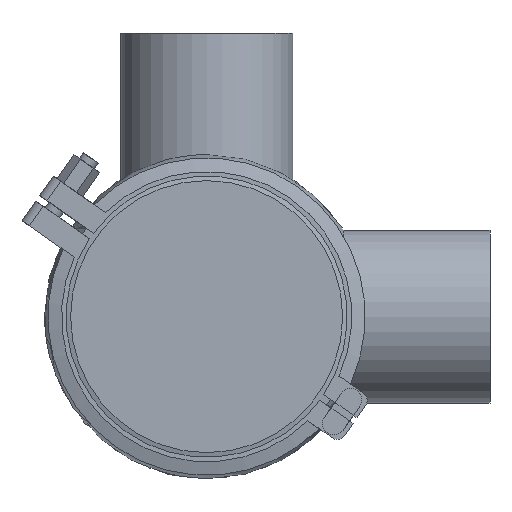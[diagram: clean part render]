
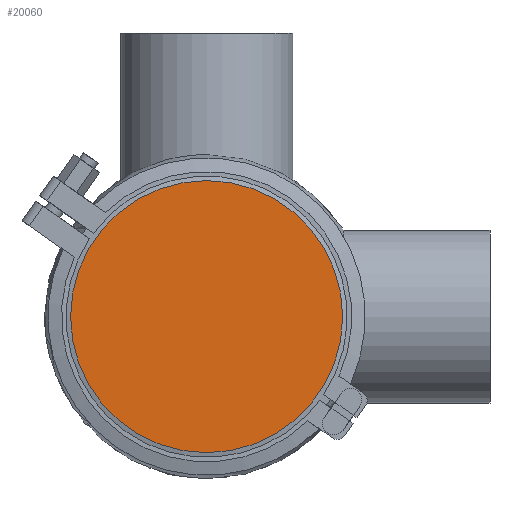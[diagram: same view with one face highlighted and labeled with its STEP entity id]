
A CAD part, front view. The second image highlights one B-rep face of the part: STEP entity #20060.
In plain terms, the highlighted planar face has unit normal (0, -1, 0).
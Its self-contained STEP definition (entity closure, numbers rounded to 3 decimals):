
#920 = FACE_OUTER_BOUND ( 'NONE', #16624, .T. ) ;
#2531 = DIRECTION ( 'NONE',  ( 0., -1., 0. ) ) ;
#4065 = AXIS2_PLACEMENT_3D ( 'NONE', #5713, #2531, #17338 ) ;
#5713 = CARTESIAN_POINT ( 'NONE',  ( -60., 0., 0. ) ) ;
#5897 = VERTEX_POINT ( 'NONE', #7712 ) ;
#6148 = EDGE_CURVE ( 'NONE', #5897, #5897, #11868, .T. ) ;
#7712 = CARTESIAN_POINT ( 'NONE',  ( 0., 0., 60. ) ) ;
#9273 = ORIENTED_EDGE ( 'NONE', *, *, #6148, .F. ) ;
#10584 = CARTESIAN_POINT ( 'NONE',  ( 0., 0., 0. ) ) ;
#10696 = DIRECTION ( 'NONE',  ( 0., 0., 1. ) ) ;
#10830 = PLANE ( 'NONE',  #4065 ) ;
#11868 = CIRCLE ( 'NONE', #14606, 60. ) ;
#14606 = AXIS2_PLACEMENT_3D ( 'NONE', #10584, #15394, #10696 ) ;
#15394 = DIRECTION ( 'NONE',  ( 0., 1., 0. ) ) ;
#16624 = EDGE_LOOP ( 'NONE', ( #9273 ) ) ;
#17338 = DIRECTION ( 'NONE',  ( 0., 0., -1. ) ) ;
#20060 = ADVANCED_FACE ( 'NONE', ( #920 ), #10830, .T. ) ;
